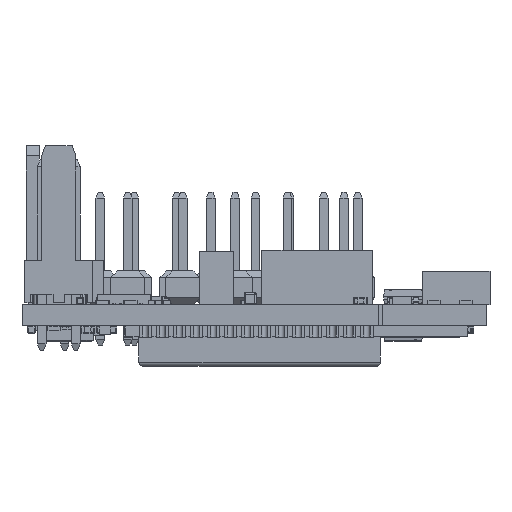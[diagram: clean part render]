
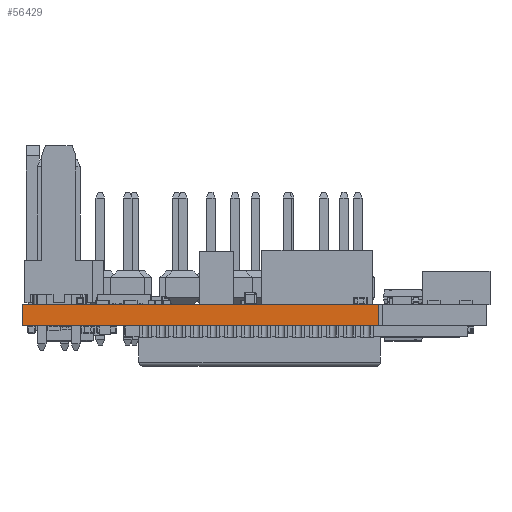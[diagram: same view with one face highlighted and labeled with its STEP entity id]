
A CAD part, left-side view. The second image highlights one B-rep face of the part: STEP entity #56429.
In plain terms, the highlighted planar face has unit normal (-1, 0, 0).
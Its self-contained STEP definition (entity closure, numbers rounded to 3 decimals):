
#1459=PLANE('',#60335);
#4126=FACE_OUTER_BOUND('',#7212,.T.);
#7212=EDGE_LOOP('',(#38662,#38663,#38664,#38665));
#10741=LINE('',#79991,#17440);
#10742=LINE('',#79994,#17441);
#10743=LINE('',#79996,#17442);
#10744=LINE('',#79997,#17443);
#17440=VECTOR('',#65205,10.);
#17441=VECTOR('',#65208,10.);
#17442=VECTOR('',#65209,10.);
#17443=VECTOR('',#65210,10.);
#25213=VERTEX_POINT('',#79987);
#25214=VERTEX_POINT('',#79989);
#25215=VERTEX_POINT('',#79993);
#25216=VERTEX_POINT('',#79995);
#30526=EDGE_CURVE('',#25213,#25214,#10741,.T.);
#30527=EDGE_CURVE('',#25215,#25213,#10742,.T.);
#30528=EDGE_CURVE('',#25216,#25214,#10743,.T.);
#30529=EDGE_CURVE('',#25215,#25216,#10744,.T.);
#38662=ORIENTED_EDGE('',*,*,#30527,.T.);
#38663=ORIENTED_EDGE('',*,*,#30526,.T.);
#38664=ORIENTED_EDGE('',*,*,#30528,.F.);
#38665=ORIENTED_EDGE('',*,*,#30529,.F.);
#56429=ADVANCED_FACE('',(#4126),#1459,.T.);
#60335=AXIS2_PLACEMENT_3D('',#79992,#65206,#65207);
#65205=DIRECTION('',(0.,0.,1.));
#65206=DIRECTION('center_axis',(-1.,0.,0.));
#65207=DIRECTION('ref_axis',(0.,-1.,0.));
#65208=DIRECTION('',(0.,-1.,0.));
#65209=DIRECTION('',(0.,-1.,0.));
#65210=DIRECTION('',(0.,0.,1.));
#79987=CARTESIAN_POINT('',(0.2,8.2,0.));
#79989=CARTESIAN_POINT('',(0.2,8.2,1.57));
#79991=CARTESIAN_POINT('',(0.2,8.2,0.));
#79992=CARTESIAN_POINT('Origin',(0.2,34.8,0.));
#79993=CARTESIAN_POINT('',(0.2,34.8,0.));
#79994=CARTESIAN_POINT('',(0.2,34.8,0.));
#79995=CARTESIAN_POINT('',(0.2,34.8,1.57));
#79996=CARTESIAN_POINT('',(0.2,34.8,1.57));
#79997=CARTESIAN_POINT('',(0.2,34.8,0.));
